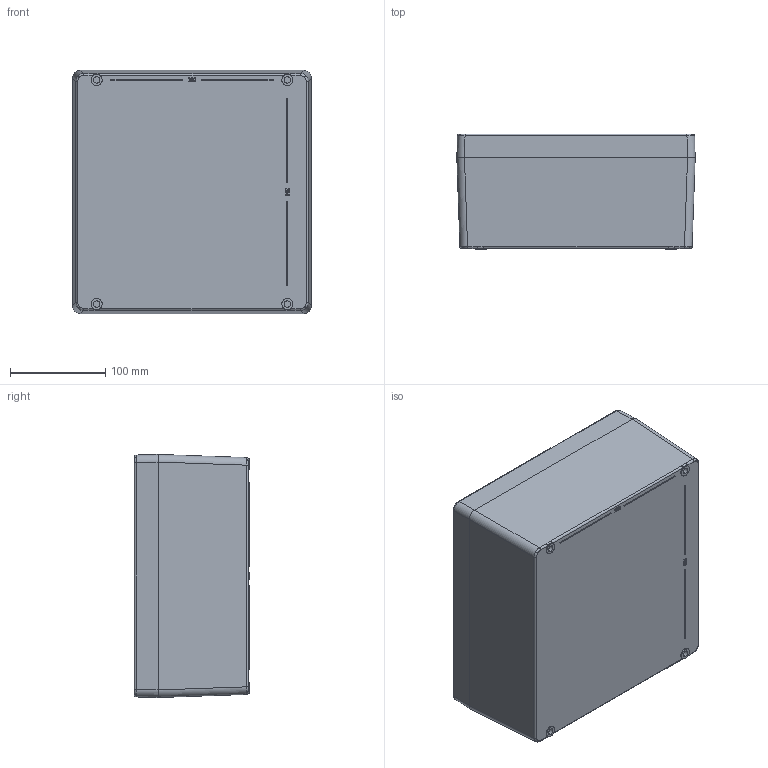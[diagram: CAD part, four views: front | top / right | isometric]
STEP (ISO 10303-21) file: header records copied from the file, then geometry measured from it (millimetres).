
FILE_DESCRIPTION (( 'STEP AP203' ), '1' );
FILE_NAME ('BPG 12.STEP', '2014-06-13T09:09:39', ( '' ), ( '' ), 'SwSTEP 2.0', 'SolidWorks 2014', '' );
FILE_SCHEMA (( 'CONFIG_CONTROL_DESIGN' ));
Length unit declared in the file: metre
Products named in the file (3): BPG12 Lid; BPG 12; BPG12 Base
Assembly tree (2 placements, depth 2):
  BPG 12
    BPG12 Base
    BPG12 Lid
Bounding box: 250 x 121.2 x 255 mm (x, y, z)
Volume: 1377536.4 mm3; surface area: 494662.9 mm2
Topology: 2 solids, 2 shells, 420 faces, 1129 edges, 716 vertices
Faces by surface type: plane 134, cylinder 122, bspline 96, cone 56, sphere 8, torus 4
Entity records: 17586 total; most frequent: CARTESIAN_POINT 7530, ORIENTED_EDGE 2202, DIRECTION 1775, EDGE_CURVE 1101, VERTEX_POINT 716, AXIS2_PLACEMENT_3D 601, LINE 573, VECTOR 573
